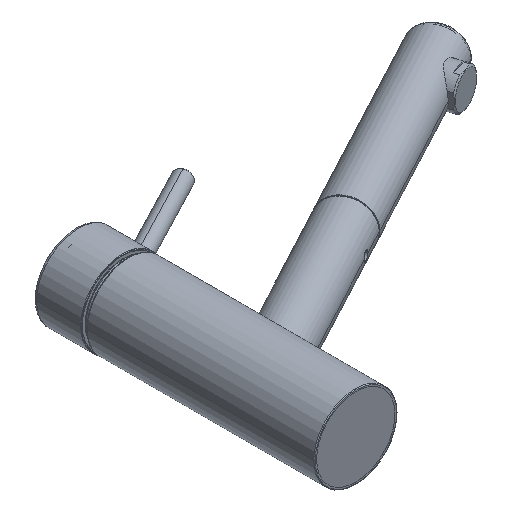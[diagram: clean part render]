
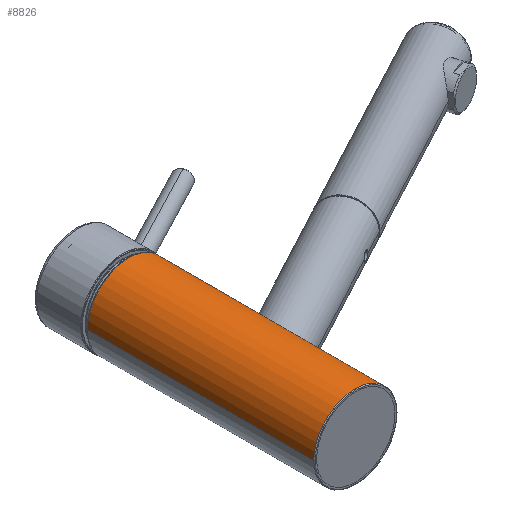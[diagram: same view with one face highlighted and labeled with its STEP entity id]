
A CAD part, isometric view. The second image highlights one B-rep face of the part: STEP entity #8826.
In plain terms, the highlighted cylindrical face has radius 26.5 mm (diameter 53 mm), a partial arc.
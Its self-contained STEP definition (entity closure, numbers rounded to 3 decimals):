
#2334=DIRECTION('',(0.,1.,0.));
#2335=VECTOR('',#2334,52.989);
#2336=CARTESIAN_POINT('',(26.5,92.561,0.));
#2337=LINE('',#2336,#2335);
#2343=DIRECTION('',(0.,1.,0.));
#2344=VECTOR('',#2343,55.469);
#2345=CARTESIAN_POINT('',(26.5,0.85,0.));
#2346=LINE('',#2345,#2344);
#2347=CARTESIAN_POINT('',(26.5,92.561,0.));
#2348=CARTESIAN_POINT('',(26.5,92.561,0.323));
#2349=CARTESIAN_POINT('',(26.488,92.533,0.971));
#2350=CARTESIAN_POINT('',(26.434,92.403,1.947));
#2351=CARTESIAN_POINT('',(26.344,92.185,2.927));
#2352=CARTESIAN_POINT('',(26.215,91.871,3.918));
#2353=CARTESIAN_POINT('',(26.045,91.453,4.926));
#2354=CARTESIAN_POINT('',(25.832,90.925,5.943));
#2355=CARTESIAN_POINT('',(25.572,90.271,6.98));
#2356=CARTESIAN_POINT('',(25.262,89.476,8.03));
#2357=CARTESIAN_POINT('',(24.901,88.526,9.091));
#2358=CARTESIAN_POINT('',(24.489,87.41,10.147));
#2359=CARTESIAN_POINT('',(24.036,86.13,11.177));
#2360=CARTESIAN_POINT('',(23.555,84.695,12.156));
#2361=CARTESIAN_POINT('',(23.069,83.138,13.054));
#2362=CARTESIAN_POINT('',(22.6,81.494,13.848));
#2363=CARTESIAN_POINT('',(22.168,79.793,14.526));
#2364=CARTESIAN_POINT('',(21.794,78.069,15.08));
#2365=CARTESIAN_POINT('',(21.497,76.373,15.498));
#2366=CARTESIAN_POINT('',(21.287,74.758,15.784));
#2367=CARTESIAN_POINT('',(21.162,73.241,15.951));
#2368=CARTESIAN_POINT('',(21.114,71.815,16.014));
#2369=CARTESIAN_POINT('',(21.137,70.466,15.984));
#2370=CARTESIAN_POINT('',(21.225,69.187,15.867));
#2371=CARTESIAN_POINT('',(21.37,67.985,15.672));
#2372=CARTESIAN_POINT('',(21.57,66.831,15.397));
#2373=CARTESIAN_POINT('',(21.825,65.704,15.033));
#2374=CARTESIAN_POINT('',(22.13,64.617,14.582));
#2375=CARTESIAN_POINT('',(22.478,63.578,14.042));
#2376=CARTESIAN_POINT('',(22.858,62.595,13.415));
#2377=CARTESIAN_POINT('',(23.268,61.659,12.693));
#2378=CARTESIAN_POINT('',(23.696,60.778,11.878));
#2379=CARTESIAN_POINT('',(24.134,59.955,10.963));
#2380=CARTESIAN_POINT('',(24.565,59.204,9.962));
#2381=CARTESIAN_POINT('',(24.978,58.53,8.878));
#2382=CARTESIAN_POINT('',(25.358,57.942,7.729));
#2383=CARTESIAN_POINT('',(25.696,57.441,6.52));
#2384=CARTESIAN_POINT('',(25.982,57.031,5.268));
#2385=CARTESIAN_POINT('',(26.211,56.713,3.979));
#2386=CARTESIAN_POINT('',(26.377,56.486,2.667));
#2387=CARTESIAN_POINT('',(26.478,56.349,1.336));
#2388=CARTESIAN_POINT('',(26.5,56.319,0.446));
#2389=CARTESIAN_POINT('',(26.5,56.319,0.));
#2391=DIRECTION('',(0.,1.,0.));
#2392=VECTOR('',#2391,144.7);
#2393=CARTESIAN_POINT('',(-26.5,0.85,0.));
#2394=LINE('',#2393,#2392);
#2395=CARTESIAN_POINT('',(0.,145.55,0.));
#2396=DIRECTION('',(0.,1.,0.));
#2397=DIRECTION('',(-1.,0.,0.));
#2398=AXIS2_PLACEMENT_3D('',#2395,#2396,#2397);
#4091=CARTESIAN_POINT('',(0.,0.85,0.));
#4092=DIRECTION('',(0.,-1.,0.));
#4093=DIRECTION('',(1.,0.,0.));
#4094=AXIS2_PLACEMENT_3D('',#4091,#4092,#4093);
#4975=CARTESIAN_POINT('',(26.5,0.85,0.));
#4976=CARTESIAN_POINT('',(-26.5,0.85,0.));
#4977=VERTEX_POINT('',#4975);
#4978=VERTEX_POINT('',#4976);
#4987=CARTESIAN_POINT('',(-26.5,145.55,0.));
#4988=CARTESIAN_POINT('',(26.5,145.55,0.));
#4989=VERTEX_POINT('',#4987);
#4990=VERTEX_POINT('',#4988);
#5069=VERTEX_POINT('',#2347);
#5070=VERTEX_POINT('',#2389);
#8810=CARTESIAN_POINT('',(0.,0.35,0.));
#8811=DIRECTION('',(0.,1.,0.));
#8812=DIRECTION('',(-1.,0.,0.));
#8813=AXIS2_PLACEMENT_3D('',#8810,#8811,#8812);
#8814=CYLINDRICAL_SURFACE('',#8813,26.5);
#8816=ORIENTED_EDGE('',*,*,#8815,.T.);
#8817=ORIENTED_EDGE('',*,*,#8805,.F.);
#8819=ORIENTED_EDGE('',*,*,#8818,.T.);
#8820=ORIENTED_EDGE('',*,*,#8801,.T.);
#8822=ORIENTED_EDGE('',*,*,#8821,.T.);
#8823=ORIENTED_EDGE('',*,*,#8797,.F.);
#8824=EDGE_LOOP('',(#8816,#8817,#8819,#8820,#8822,#8823));
#8825=FACE_OUTER_BOUND('',#8824,.F.);
#2390=B_SPLINE_CURVE_WITH_KNOTS('',3,(#2347,#2348,#2349,#2350,#2351,#2352,#2353,
#2354,#2355,#2356,#2357,#2358,#2359,#2360,#2361,#2362,#2363,#2364,#2365,#2366,
#2367,#2368,#2369,#2370,#2371,#2372,#2373,#2374,#2375,#2376,#2377,#2378,#2379,
#2380,#2381,#2382,#2383,#2384,#2385,#2386,#2387,#2388,#2389),.UNSPECIFIED.,.F.,
.F.,(4,1,1,1,1,1,1,1,1,1,1,1,1,1,1,1,1,1,1,1,1,1,1,1,1,1,1,1,1,1,1,1,1,1,1,1,1,
1,1,1,4),(0.,0.025,0.05,0.075,0.1,0.125,0.15,0.175,0.2,0.225,
0.25,0.275,0.3,0.325,0.35,0.375,0.4,0.425,0.45,0.475,0.5,
0.525,0.55,0.575,0.6,0.625,0.65,0.675,0.7,0.725,0.75,
0.775,0.8,0.825,0.85,0.875,0.9,0.925,0.95,0.975,1.),
.UNSPECIFIED.);
#2399=CIRCLE('',#2398,26.5);
#4095=CIRCLE('',#4094,26.5);
#8797=EDGE_CURVE('',#5069,#4990,#2337,.T.);
#8801=EDGE_CURVE('',#4978,#4989,#2394,.T.);
#8805=EDGE_CURVE('',#4977,#5070,#2346,.T.);
#8815=EDGE_CURVE('',#5069,#5070,#2390,.T.);
#8818=EDGE_CURVE('',#4977,#4978,#4095,.T.);
#8821=EDGE_CURVE('',#4989,#4990,#2399,.T.);
#8826=ADVANCED_FACE('',(#8825),#8814,.T.);
